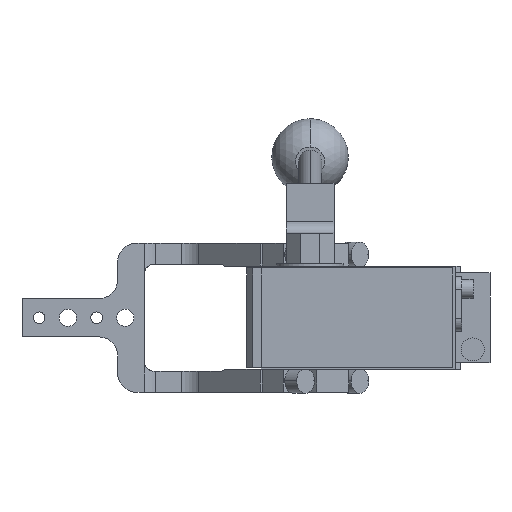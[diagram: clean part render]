
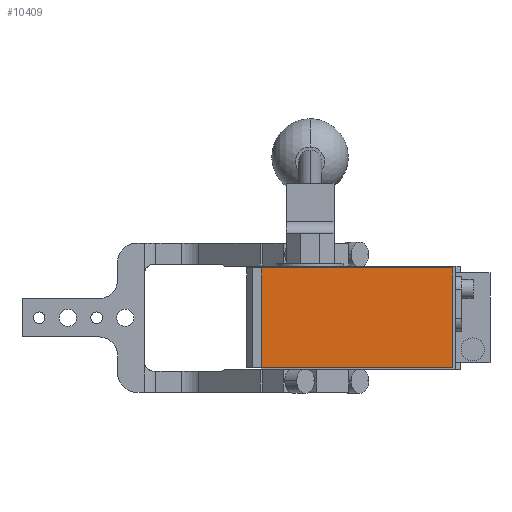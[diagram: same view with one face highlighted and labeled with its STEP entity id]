
A CAD part, front view. The second image highlights one B-rep face of the part: STEP entity #10409.
In plain terms, the highlighted planar face has unit normal (0, -1, 0).
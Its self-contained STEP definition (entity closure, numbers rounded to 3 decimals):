
#875 = VECTOR ( 'NONE', #5332, 1000. ) ;
#1397 = VERTEX_POINT ( 'NONE', #8421 ) ;
#1647 = EDGE_CURVE ( 'NONE', #1397, #14014, #3050, .T. ) ;
#1973 = DIRECTION ( 'NONE',  ( 1., 0., 0. ) ) ;
#2494 = VECTOR ( 'NONE', #8277, 1000. ) ;
#2838 = LINE ( 'NONE', #7733, #7351 ) ;
#3050 = LINE ( 'NONE', #7853, #14446 ) ;
#3135 = DIRECTION ( 'NONE',  ( 0., 0., -1. ) ) ;
#4900 = LINE ( 'NONE', #13893, #2494 ) ;
#5332 = DIRECTION ( 'NONE',  ( -1., 0., 0. ) ) ;
#6681 = EDGE_CURVE ( 'NONE', #14014, #8435, #2838, .T. ) ;
#7176 = ORIENTED_EDGE ( 'NONE', *, *, #6681, .T. ) ;
#7351 = VECTOR ( 'NONE', #1973, 1000. ) ;
#7621 = LINE ( 'NONE', #11121, #875 ) ;
#7733 = CARTESIAN_POINT ( 'NONE',  ( -19., -286.5, -26. ) ) ;
#7853 = CARTESIAN_POINT ( 'NONE',  ( -19., -286.5, 26. ) ) ;
#8277 = DIRECTION ( 'NONE',  ( 0., 0., 1. ) ) ;
#8394 = CARTESIAN_POINT ( 'NONE',  ( -19., -286.5, -26. ) ) ;
#8421 = CARTESIAN_POINT ( 'NONE',  ( -19., -286.5, 26. ) ) ;
#8435 = VERTEX_POINT ( 'NONE', #8519 ) ;
#8485 = CARTESIAN_POINT ( 'NONE',  ( 81., -286.5, 26. ) ) ;
#8519 = CARTESIAN_POINT ( 'NONE',  ( 81., -286.5, -26. ) ) ;
#8652 = PLANE ( 'NONE',  #12040 ) ;
#8726 = DIRECTION ( 'NONE',  ( 0., -1., 0. ) ) ;
#8995 = VERTEX_POINT ( 'NONE', #8485 ) ;
#10026 = DIRECTION ( 'NONE',  ( 0., 0., -1. ) ) ;
#10409 = ADVANCED_FACE ( 'NONE', ( #12158 ), #8652, .T. ) ;
#11121 = CARTESIAN_POINT ( 'NONE',  ( -19., -286.5, 26. ) ) ;
#11743 = ORIENTED_EDGE ( 'NONE', *, *, #13278, .T. ) ;
#11874 = ORIENTED_EDGE ( 'NONE', *, *, #13877, .T. ) ;
#12040 = AXIS2_PLACEMENT_3D ( 'NONE', #12302, #8726, #10026 ) ;
#12158 = FACE_OUTER_BOUND ( 'NONE', #12410, .T. ) ;
#12302 = CARTESIAN_POINT ( 'NONE',  ( 0., -286.5, 0. ) ) ;
#12410 = EDGE_LOOP ( 'NONE', ( #14371, #7176, #11874, #11743 ) ) ;
#13278 = EDGE_CURVE ( 'NONE', #8995, #1397, #7621, .T. ) ;
#13877 = EDGE_CURVE ( 'NONE', #8435, #8995, #4900, .T. ) ;
#13893 = CARTESIAN_POINT ( 'NONE',  ( 81., -286.5, 26. ) ) ;
#14014 = VERTEX_POINT ( 'NONE', #8394 ) ;
#14371 = ORIENTED_EDGE ( 'NONE', *, *, #1647, .T. ) ;
#14446 = VECTOR ( 'NONE', #3135, 1000. ) ;
